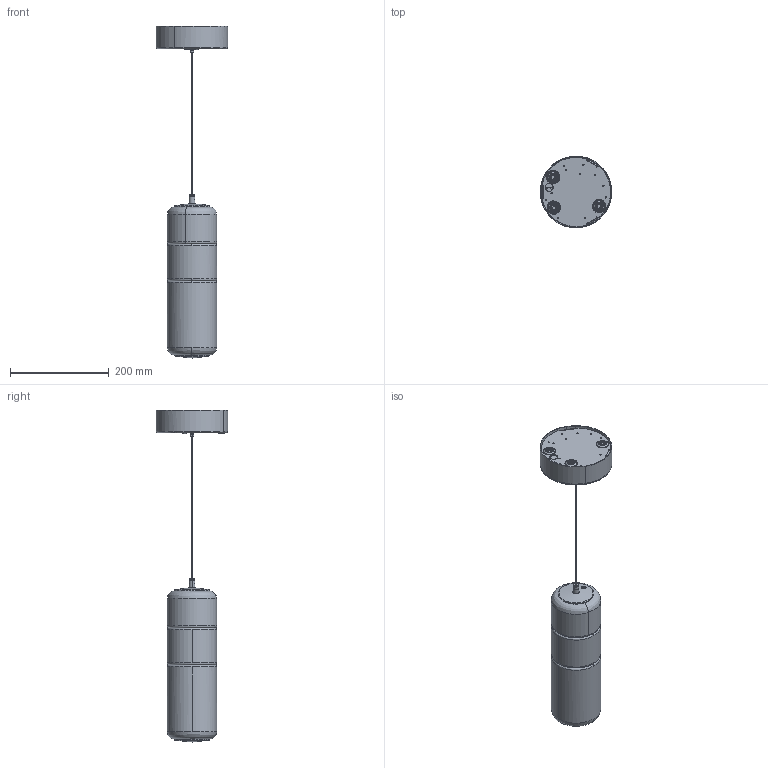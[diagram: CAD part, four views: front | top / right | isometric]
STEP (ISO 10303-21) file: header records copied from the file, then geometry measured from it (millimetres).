
FILE_DESCRIPTION(/* description */ (''),/* implementation_level */ '2;1');
FILE_NAME(/* name */ '00343MP3LD00CEPB - STACKING S 30 V GLASS',/* time_stamp */ '2023-09-27T17:14:26+02:00',/* author */ (''),/* organization */ (''),/* preprocessor_version */ 'ST-DEVELOPER v16.5',/* originating_system */ 'Rhino 7.27',/* authorisation */ '');
FILE_SCHEMA (('CONFIG_CONTROL_DESIGN'));
Length unit declared in the file: millimetre
Products named in the file (1): Document
Bounding box: 144.91 x 144.92 x 672.06 mm (x, y, z)
Volume: 635005.8 mm3; surface area: 551719.9 mm2
Topology: 21 solids, 21 shells, 723 faces, 1781 edges, 1157 vertices
Faces by surface type: plane 284, cylinder 263, bspline 176
Entity records: 24479 total; most frequent: CARTESIAN_POINT 12800, ORIENTED_EDGE 3542, EDGE_CURVE 1771, VERTEX_POINT 1157, EDGE_LOOP 892, B_SPLINE_CURVE_WITH_KNOTS 766, ADVANCED_FACE 723, FACE_OUTER_BOUND 723
